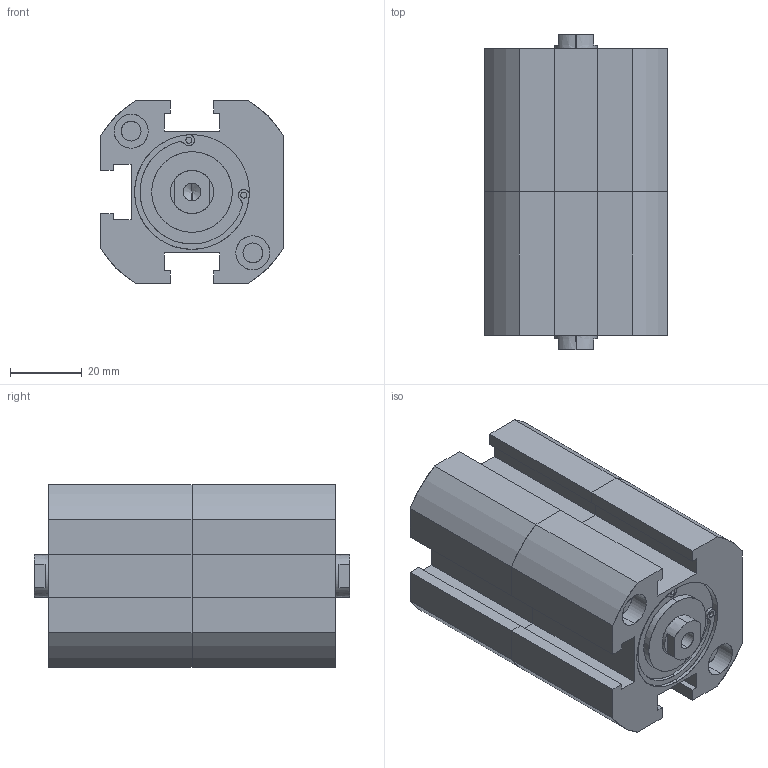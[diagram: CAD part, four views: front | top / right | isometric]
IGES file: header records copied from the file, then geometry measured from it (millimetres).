
Start section: SolidWorks IGES file using analytic representation for surfaces
Global section: file name: C:\Users\Toshiba\Desktop\XGD7-32-10-10.IGS; native system: SolidWorks 2014; preprocessor: SolidWorks 2014; author: Toshiba; date: 160805.094329; units: millimetre
Bounding box: 51 x 88 x 51 mm (x, y, z)
Surface area: 34420 mm2 (no closed solid volume)
Topology: 0 solids, 0 shells, 196 faces, 3004 edges, 2992 vertices
Faces by surface type: revolution 104, bspline 92
